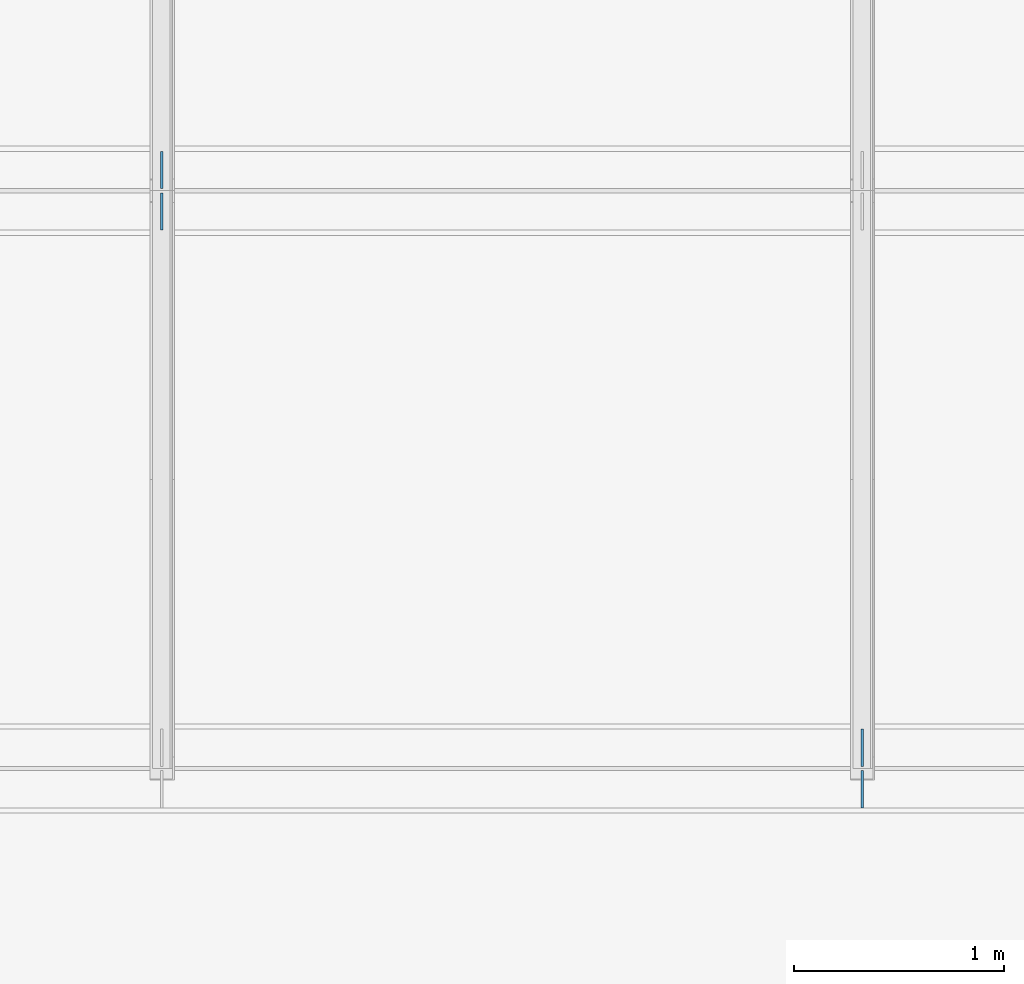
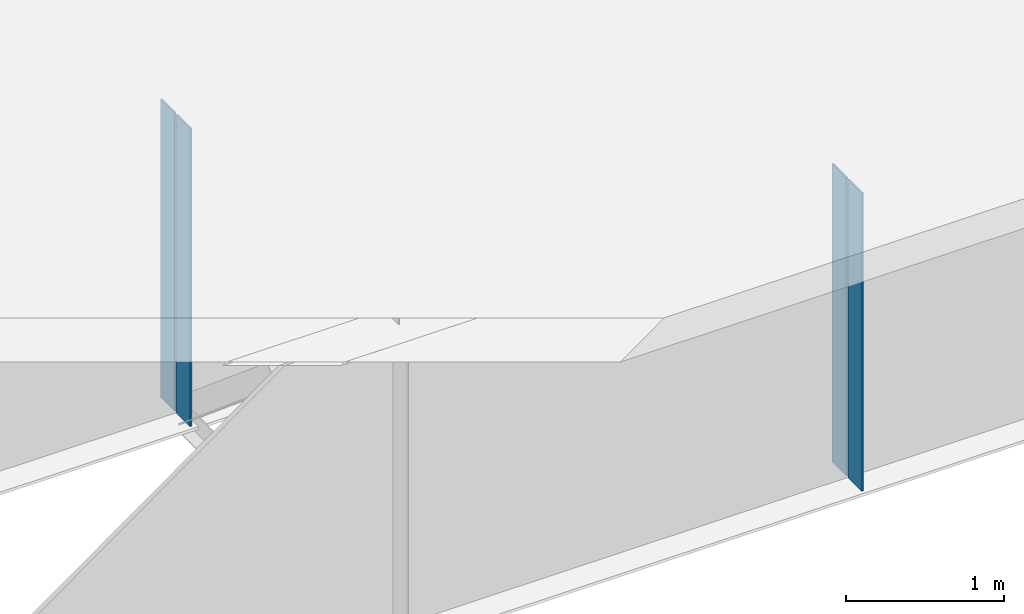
# One storey, part 6 of 13: 4 plates.
"""IFC4 building model written with IfcOpenShell, lengths in metres."""

from ifc_helpers import new_model, si_unit, frame, origin, origin_with_axes, origin_2d_with_axis, place, context, subcontext, project, spatial, rectangle, extrude, element, save


model = new_model("IFC4")

# Units and contexts
model_context = context("Model", 3, precision=1e-05, world=origin())
body_context = subcontext(model_context, "Body", "Model", "MODEL_VIEW")
ifc_project = project(units=[si_unit("LENGTHUNIT", "METRE"), si_unit("AREAUNIT", "SQUARE_METRE"), si_unit("VOLUMEUNIT", "CUBIC_METRE"), si_unit("PLANEANGLEUNIT", "RADIAN")], contexts=[model_context])

# Site, building, storey
site_placement = place(None, origin_with_axes())
site = spatial("IfcSite", under=ifc_project, at=site_placement, Name="Default Site")
building_placement = place(site_placement, origin_with_axes())
building = spatial("IfcBuilding", under=site, at=building_placement, Name="Bridge Structure")
storey_placement = place(building_placement, origin_with_axes())
storey = spatial("IfcBuildingStorey", under=building, at=storey_placement, Name="Superstructure")

# Plates
for number, where, z_axis, x_axis, name in (
    (1, (19.998, -4.02625, -1.155), (0.0, 0.0, 1.0), (1.0, 0.0, 0.0), "Intermediate Stiffener 1"),
    (2, (19.998, -4.22375, -1.155), (0.0, 0.0, 1.0), (1.0, 0.0, 0.0), "Intermediate Stiffener 1"),
    (3, (16.665, -1.27625, -1.155), (0.0, 0.0, 1.0), (1.0, 0.0, 0.0), "Intermediate Stiffener 2"),
    (4, (16.665, -1.4737500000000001, -1.155), (0.0, 0.0, 1.0), (1.0, 0.0, 0.0), "Intermediate Stiffener 2"),
):
    element("IfcPlate", number, at=place(storey_placement, frame(where, z_axis=z_axis, x_axis=x_axis)), inside=storey, Name=name, context=body_context, shape_type="SweptSolid", body=[
        extrude(rectangle(XDim=0.012, YDim=0.1775, at=origin_2d_with_axis()), origin_with_axes(), (0.0, 0.0, 1.0), 2.31),
    ])

save(model, "model.ifc")
